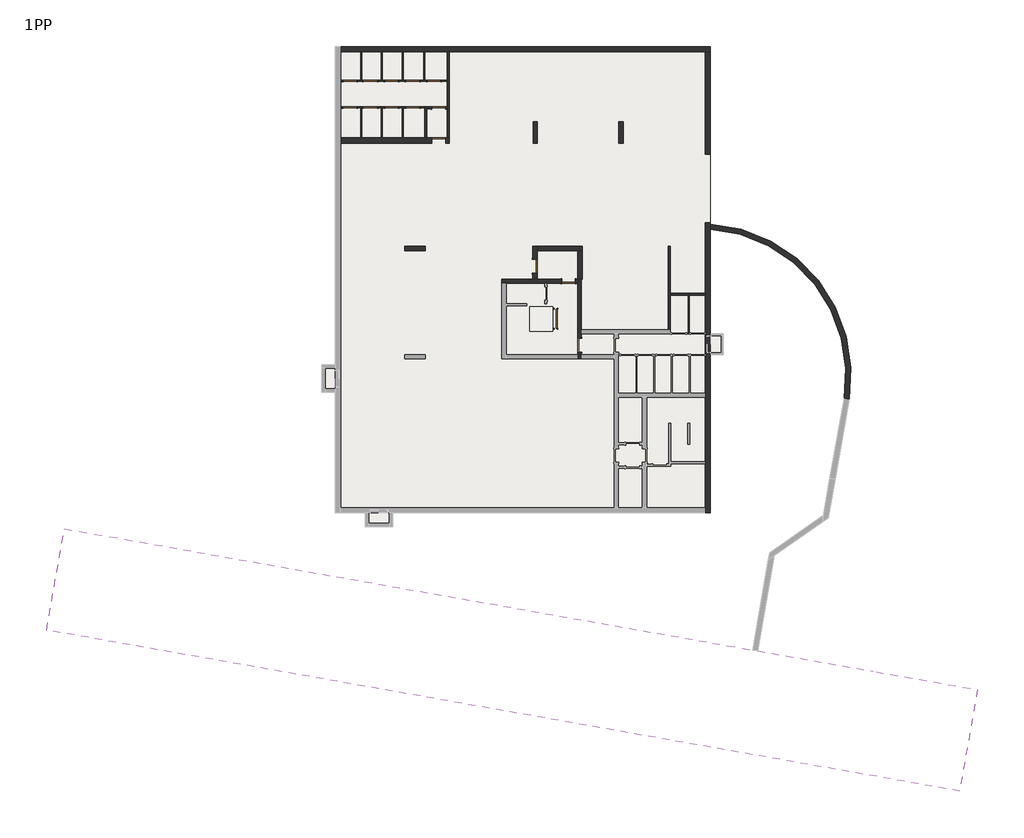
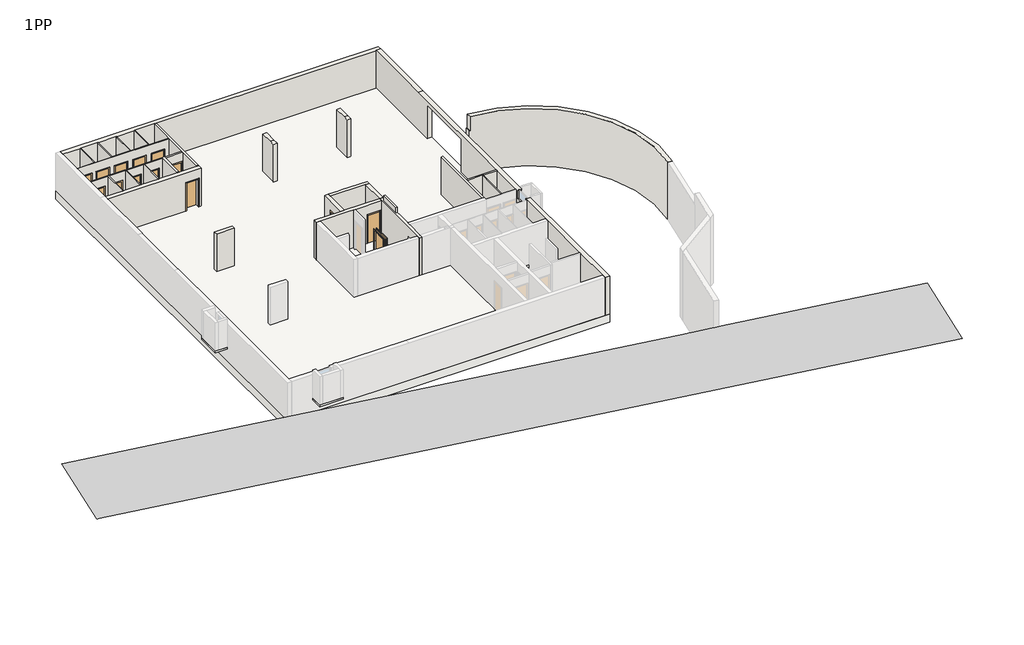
# One storey, part 2 of 2: 27 walls, 14 doors, 5 slabs, 1 proxy.
"""IFC4 building model written with IfcOpenShell, lengths in millimetres."""

from ifc_helpers import new_model, si_unit, frame, origin, place, context, project, spatial, polyline, circle_curve, outline, extrude, faceted_brep, triangles, transform, mapped, element, save
from ifc_brep_helpers import plane_surface, cylinder_surface, revolved_surface, advanced_brep
from components import sd_1100x2000_1d62120a, sd_800x2000_125e4961, sd_800x2000_3ea96131, sd_800x2000_59be3646, sd_800x2000_a65bdf52, sd_800x2000_c4456082

model = new_model("IFC4")

# Units and contexts
model_context = context("Model", 3, world=origin())
ifc_project = project(units=[si_unit("LENGTHUNIT", "METRE", prefix="MILLI")], contexts=[model_context])

# Site, building, storey
site = spatial("IfcSite", under=ifc_project)
building = spatial("IfcBuilding", under=site)
storey = spatial("IfcBuildingStorey", under=building, Name="1PP", Elevation=-3100.0)

# Proxy
placement = place(None, origin())
element("IfcBuildingElementProxy", 1, Name="Building Element Proxy", at=placement, inside=storey, context=model_context, shape_type="Tessellation", body=[
    triangles([(-29384.1506104, -17883.2107544, -100.0000008), (23796.8823486, -27260.4616333, -100.0000008), (24837.1421082, -21349.2898865, -100.0000008), (18927.9481476, -20309.3766174, -100.0000008), (18632.5057159, -20257.2821228, -100.0000008), (12034.2933472, -19093.8403473, -100.0000008), (10244.7211853, -18780.6943451, -100.0000008), (-22215.7881592, -13057.0262695, -100.0000008), (-28342.6723206, -11976.6910492, -100.0000008)], [[1, 7, 8], [7, 1, 2], [8, 9, 1], [2, 3, 4], [2, 5, 6], [5, 2, 4], [2, 6, 7]], closed=False),
])

# Doors
sd_1100x2000_shape = sd_1100x2000_1d62120a(model_context)
element("IfcDoor", 2, ObjectType="JednokridlePlne : SD 1100x2000", at=placement, inside=storey, context=model_context, shape_type="MappedRepresentation", body=[
    mapped(sd_1100x2000_shape, transform((277.8037835, 250.1290541, -3100.0), x_axis=(0.0, -1.0, 0.0), y_axis=(1.0, 0.0, 0.0), z_axis=(0.0, 0.0, 1.0))),
])
sd_800x2000_shape = sd_800x2000_125e4961(model_context)
element("IfcDoor", 3, ObjectType="JednokridlePlne : SD 800x2000", at=placement, inside=storey, context=model_context, shape_type="MappedRepresentation", body=[
    mapped(sd_800x2000_shape, transform((-6815.2612912, 14107.6290541, -3100.0), x_axis=(1.0, 0.0, 0.0), y_axis=(0.0, 1.0, 0.0), z_axis=(0.0, 0.0, 1.0))),
])
element("IfcDoor", 4, ObjectType="JednokridlePlne : SD 800x2000", at=placement, inside=storey, context=model_context, shape_type="MappedRepresentation", body=[
    mapped(sd_800x2000_shape, transform((-8055.2612912, 14107.6290541, -3100.0), x_axis=(1.0, 0.0, 0.0), y_axis=(0.0, 1.0, 0.0), z_axis=(0.0, 0.0, 1.0))),
])
element("IfcDoor", 5, ObjectType="JednokridlePlne : SD 800x2000", at=placement, inside=storey, context=model_context, shape_type="MappedRepresentation", body=[
    mapped(sd_800x2000_shape, transform((-9295.2612912, 14107.6290541, -3100.0), x_axis=(1.0, 0.0, 0.0), y_axis=(0.0, 1.0, 0.0), z_axis=(0.0, 0.0, 1.0))),
])
element("IfcDoor", 6, ObjectType="JednokridlePlne : SD 800x2000", at=placement, inside=storey, context=model_context, shape_type="MappedRepresentation", body=[
    mapped(sd_800x2000_shape, transform((-10535.2612912, 14107.6290541, -3100.0), x_axis=(1.0, 0.0, 0.0), y_axis=(0.0, 1.0, 0.0), z_axis=(0.0, 0.0, 1.0))),
])
element("IfcDoor", 7, ObjectType="JednokridlePlne : SD 800x2000", at=placement, inside=storey, context=model_context, shape_type="MappedRepresentation", body=[
    mapped(sd_800x2000_shape, transform((-11715.2612912, 14107.6290541, -3100.0), x_axis=(1.0, 0.0, 0.0), y_axis=(0.0, 1.0, 0.0), z_axis=(0.0, 0.0, 1.0))),
])
sd_800x2000_2_shape = sd_800x2000_3ea96131(model_context)
element("IfcDoor", 8, ObjectType="JednokridlePlne : SD 800x2000", at=placement, inside=storey, context=model_context, shape_type="MappedRepresentation", body=[
    mapped(sd_800x2000_2_shape, transform((-11715.2612912, 12567.6290541, -3100.0), x_axis=(1.0, 0.0, 0.0), y_axis=(0.0, 1.0, 0.0), z_axis=(0.0, 0.0, 1.0))),
])
element("IfcDoor", 9, ObjectType="JednokridlePlne : SD 800x2000", at=placement, inside=storey, context=model_context, shape_type="MappedRepresentation", body=[
    mapped(sd_800x2000_2_shape, transform((-10535.2612912, 12567.6290541, -3100.0), x_axis=(1.0, 0.0, 0.0), y_axis=(0.0, 1.0, 0.0), z_axis=(0.0, 0.0, 1.0))),
])
element("IfcDoor", 10, ObjectType="JednokridlePlne : SD 800x2000", at=placement, inside=storey, context=model_context, shape_type="MappedRepresentation", body=[
    mapped(sd_800x2000_2_shape, transform((-9295.2612912, 12567.6290541, -3100.0), x_axis=(1.0, 0.0, 0.0), y_axis=(0.0, 1.0, 0.0), z_axis=(0.0, 0.0, 1.0))),
])
element("IfcDoor", 11, ObjectType="JednokridlePlne : SD 800x2000", at=placement, inside=storey, context=model_context, shape_type="MappedRepresentation", body=[
    mapped(sd_800x2000_2_shape, transform((-8055.2612912, 12567.6290541, -3100.0), x_axis=(1.0, 0.0, 0.0), y_axis=(0.0, 1.0, 0.0), z_axis=(0.0, 0.0, 1.0))),
])
sd_800x2000_3_shape = sd_800x2000_59be3646(model_context)
element("IfcDoor", 12, ObjectType="JednokridlePlne : SD 800x2000", at=placement, inside=storey, context=model_context, shape_type="MappedRepresentation", body=[
    mapped(sd_800x2000_3_shape, transform((-937.1911601, 3317.6290541, -3100.0), x_axis=(0.0, -1.0, 0.0), y_axis=(1.0, 0.0, 0.0), z_axis=(0.0, 0.0, 1.0))),
])
element("IfcDoor", 13, ObjectType="JednokridlePlne : SD 800x2000", at=placement, inside=storey, context=model_context, shape_type="MappedRepresentation", body=[
    mapped(sd_800x2000_3_shape, transform((1022.8088399, 2442.6290541, -3100.0), x_axis=(-1.0, 0.0, 0.0), y_axis=(0.0, -1.0, 0.0), z_axis=(0.0, 0.0, 1.0))),
])
sd_800x2000_4_shape = sd_800x2000_a65bdf52(model_context)
element("IfcDoor", 14, ObjectType="JednokridlePlne : SD 800x2000", at=placement, inside=storey, context=model_context, shape_type="MappedRepresentation", body=[
    mapped(sd_800x2000_4_shape, transform((-6533.5911601, 10637.6290541, -3100.0), x_axis=(-1.0, 0.0, 0.0), y_axis=(0.0, -1.0, 0.0), z_axis=(0.0, 0.0, 1.0))),
])
sd_800x2000_5_shape = sd_800x2000_c4456082(model_context)
element("IfcDoor", 15, ObjectType="JednokridlePlne : SD 800x2000", at=placement, inside=storey, context=model_context, shape_type="MappedRepresentation", body=[
    mapped(sd_800x2000_5_shape, transform((-6533.5911601, 12532.6290541, -3100.0), x_axis=(-1.0, 0.0, 0.0), y_axis=(0.0, -1.0, 0.0), z_axis=(0.0, 0.0, 1.0))),
])

# Slabs
element("IfcSlab", 16, ObjectType="STB120 Light Pit", at=placement, inside=storey, context=model_context, shape_type="Brep", body=[
    faceted_brep([(-12557.1911601, -2432.3709459, -2220.0), (-12557.1911601, -4032.3709459, -2220.0), (-13363.5911601, -4032.3709459, -2220.0), (-13363.5911601, -2432.3709459, -2220.0), (-12557.1911601, -2432.3709459, -2100.0), (-13363.5911601, -2432.3709459, -2100.0), (-13363.5911601, -2632.3709459, -2100.0), (-13363.5911601, -4032.3709459, -2100.0), (-13163.5911601, -4032.3709459, -2100.0), (-12557.1911601, -4032.3709459, -2100.0)], [[[0, 1, 2, 3]], [[4, 5, 6, 7, 8, 9]], [[1, 0, 4, 9]], [[2, 1, 9, 8, 7]], [[3, 2, 7, 6, 5]], [[0, 3, 5, 4]]]),
])
element("IfcSlab", 17, ObjectType="STB120 Light Pit", at=placement, inside=storey, context=model_context, shape_type="Brep", body=[
    faceted_brep([(-9223.5911601, -11872.3709459, -2220.0), (-10823.5911601, -11872.3709459, -2220.0), (-10823.5911601, -11052.3709459, -2220.0), (-9223.5911601, -11052.3709459, -2220.0), (-9223.5911601, -11872.3709459, -2100.0), (-9223.5911601, -11052.3709459, -2100.0), (-10823.5911601, -11052.3709459, -2100.0), (-10823.5911601, -11872.3709459, -2100.0), (-10623.5911601, -11872.3709459, -2100.0), (-9423.5911601, -11872.3709459, -2100.0)], [[[0, 1, 2, 3]], [[4, 5, 6, 7, 8, 9]], [[1, 0, 4, 9, 8, 7]], [[2, 1, 7, 6]], [[3, 2, 6, 5]], [[0, 3, 5, 4]]]),
])
element("IfcSlab", 18, ObjectType="STB120 Light Pit", at=placement, inside=storey, context=model_context, shape_type="Brep", body=[
    faceted_brep([(10036.4088399, -1852.3709459, -2220.0), (9282.8088399, -1852.3709459, -2220.0), (9282.8088399, -612.3709455, -2220.0), (10036.4088399, -612.3709455, -2220.0), (10036.4088399, -1852.3709459, -2100.0), (10036.4088399, -732.3709455, -2100.0), (10036.4088399, -612.3709455, -2100.0), (9282.8088399, -612.3709455, -2100.0), (9282.8088399, -1852.3709459, -2100.0), (9916.4088399, -1852.3709459, -2100.0)], [[[0, 1, 2, 3]], [[4, 5, 6, 7, 8, 9]], [[1, 0, 4, 9, 8]], [[2, 1, 8, 7]], [[3, 2, 7, 6]], [[0, 3, 6, 5, 4]]]),
])
element("IfcSlab", 19, ObjectType="STB400", at=placement, inside=storey, context=model_context, shape_type="Brep", body=[
    faceted_brep([(362.8037835, 1117.6290541, -4900.0), (362.8037835, -632.3709459, -4900.0), (-1407.1962165, -632.3709459, -4900.0), (-1407.1962165, 1117.6290541, -4900.0), (362.8037835, 1117.6290541, -4500.0), (-1407.1962165, 1117.6290541, -4500.0), (-1407.1962165, 947.6290541, -4500.0), (-1407.1962165, -632.3709459, -4500.0), (-1237.1962165, -632.3709459, -4500.0), (362.8037835, -632.3709459, -4500.0), (362.8037835, -462.3709459, -4500.0), (362.8037835, 947.6290541, -4500.0)], [[[0, 1, 2, 3]], [[4, 5, 6, 7, 8, 9, 10, 11]], [[1, 0, 4, 11, 10, 9]], [[2, 1, 9, 8, 7]], [[3, 2, 7, 6, 5]], [[0, 3, 5, 4]]]),
])
element("IfcSlab", 20, ObjectType="STB400 + 180 Lining", at=placement, inside=storey, context=model_context, shape_type="Brep", body=[
    faceted_brep([(9282.8088399, 16107.6290541, -3680.0), (9282.8088399, -11052.3709459, -3680.0), (-12557.1911601, -11052.3709459, -3680.0), (-12557.1911601, 16107.6290541, -3680.0), (87.8037835, 947.6290541, -3680.0), (-1237.1962165, 947.6290541, -3680.0), (-1237.1962165, -462.3709459, -3680.0), (87.8037835, -462.3709459, -3680.0), (9282.8088399, 16107.6290541, -3100.0), (-12257.1911601, 16107.6290541, -3100.0), (-12557.1911601, 16107.6290541, -3100.0), (-12557.1911601, -11052.3709459, -3100.0), (-12257.1911601, -11052.3709459, -3100.0), (8982.8088399, -11052.3709459, -3100.0), (9282.8088399, -11052.3709459, -3100.0), (9282.8088399, 5833.9107709, -3100.0), (9282.8088399, 9833.9107709, -3100.0), (9282.8088399, 15807.6290541, -3100.0), (87.8037835, 947.6290541, -3100.0), (87.8037835, -462.3709459, -3100.0), (-1237.1962165, -462.3709459, -3100.0), (-1237.1962165, 947.6290541, -3100.0)], [[[0, 1, 2, 3], [4, 5, 6, 7]], [[8, 9, 10, 11, 12, 13, 14, 15, 16, 17], [18, 19, 20, 21]], [[1, 0, 8, 17, 16, 15, 14]], [[2, 1, 14, 13, 12, 11]], [[3, 2, 11, 10]], [[0, 3, 10, 9, 8]], [[5, 4, 18, 21]], [[6, 5, 21, 20]], [[7, 6, 20, 19]], [[4, 7, 19, 18]]]),
])

# Walls
element("IfcWall", 21, ObjectType="Exterior - STB 300mm", at=placement, inside=storey, context=model_context, shape_type="Brep", body=[
    faceted_brep([(-12257.1911601, 15807.6290541, -3100.0), (-11073.5911601, 15807.6290541, -3100.0), (-11023.5911601, 15807.6290541, -3100.0), (-9893.5911601, 15807.6290541, -3100.0), (-9843.5911601, 15807.6290541, -3100.0), (-8653.5911601, 15807.6290541, -3100.0), (-8603.5911601, 15807.6290541, -3100.0), (-7413.5911601, 15807.6290541, -3100.0), (-7363.5911601, 15807.6290541, -3100.0), (-6043.5911601, 15807.6290541, -3100.0), (-5923.5911601, 15807.6290541, -3100.0), (8982.8088399, 15807.6290541, -3100.0), (9282.8088399, 15807.6290541, -3100.0), (9282.8088399, 15807.6290541, -409.0), (-7363.5911601, 15807.6290541, -409.0), (-7413.5911601, 15807.6290541, -409.0), (-8603.5911601, 15807.6290541, -409.0), (-8653.5911601, 15807.6290541, -409.0), (-9843.5911601, 15807.6290541, -409.0), (-9893.5911601, 15807.6290541, -409.0), (-11023.5911601, 15807.6290541, -409.0), (-11073.5911601, 15807.6290541, -409.0), (-12257.1911601, 15807.6290541, -409.0), (-12257.1911601, 16107.6290541, -3100.0), (-12257.1911601, 16107.6290541, -409.0), (9282.8088399, 16107.6290541, -409.0), (9282.8088399, 16107.6290541, -3100.0)], [[[0, 1, 2, 3, 4, 5, 6, 7, 8, 9, 10, 11, 12, 13, 14, 15, 16, 17, 18, 19, 20, 21, 22]], [[23, 24, 25, 26]], [[12, 11, 10, 9, 8, 7, 6, 5, 4, 3, 2, 1, 0, 23, 26]], [[13, 12, 26, 25]], [[0, 22, 24, 23]], [[22, 21, 20, 19, 18, 17, 16, 15, 14, 13, 25, 24]]]),
])
element("IfcWall", 22, ObjectType="Exterior - STB 300mm", at=placement, inside=storey, context=model_context, shape_type="Brep", body=[
    faceted_brep([(8982.8088399, -11052.3709459, -3100.0), (8982.8088399, -11052.3709459, -400.0), (8982.8088399, -10752.3709459, -400.0), (8982.8088399, -8182.3709459, -400.0), (8982.8088399, -8062.3709459, -400.0), (8982.8088399, -8052.3709459, -400.0), (8982.8088399, -5832.3709459, -400.0), (8982.8088399, -4332.3709459, -400.0), (8982.8088399, -4082.3709459, -400.0), (8982.8088399, -1882.3709459, -400.0), (8982.8088399, -1832.3709459, -400.0), (8982.8088399, -1732.3709482, -400.0), (8982.8088399, -1732.3709482, -1000.0), (8982.8088399, -732.3709482, -1000.0), (8982.8088399, -732.3709482, -400.0), (8982.8088399, -632.3709459, -400.0), (8982.8088399, -582.3709459, -400.0), (8982.8088399, 1617.6290541, -400.0), (8982.8088399, 1737.6290541, -400.0), (8982.8088399, 10867.6290541, -400.0), (8982.8088399, 15807.6290541, -400.0), (8982.8088399, 15807.6290541, -3100.0), (8982.8088399, 9833.9107709, -3100.0), (8982.8088399, 9833.9107709, -700.0), (8982.8088399, 5833.9107709, -700.0), (8982.8088399, 5833.9107709, -3100.0), (8982.8088399, 1737.6290541, -3100.0), (8982.8088399, 1617.6290541, -3100.0), (8982.8088399, -582.3709459, -3100.0), (8982.8088399, -632.3709459, -3100.0), (8982.8088399, -1832.3709459, -3100.0), (8982.8088399, -1882.3709459, -3100.0), (8982.8088399, -4082.3709459, -3100.0), (8982.8088399, -4332.3709459, -3100.0), (8982.8088399, -8062.3709459, -3100.0), (8982.8088399, -8182.3709459, -3100.0), (8982.8088399, -10752.3709459, -3100.0), (9282.8088399, -11052.3709459, -400.0), (9282.8088399, -11052.3709459, -3100.0), (9282.8088399, 5465.8077821, -3100.0), (9282.8088399, 5766.4923812, -3100.0), (9282.8088399, 5833.9107709, -3100.0), (9282.8088399, 5833.9107709, -700.0), (9282.8088399, 9833.9107709, -700.0), (9282.8088399, 9833.9107709, -3100.0), (9282.8088399, 15807.6290541, -3100.0), (9282.8088399, 15807.6290541, -409.0), (9282.8088399, 15807.6290541, -400.0), (9282.8088399, 10867.6290541, -400.0), (9282.8088399, 10389.7527089, -400.0), (9282.8088399, 9901.4107709, -400.0), (9282.8088399, -732.3709482, -400.0), (9282.8088399, -732.3709482, -1000.0), (9282.8088399, -1732.3709482, -1000.0), (9282.8088399, -1732.3709482, -400.0)], [[[0, 1, 2, 3, 4, 5, 6, 7, 8, 9, 10, 11, 12, 13, 14, 15, 16, 17, 18, 19, 20, 21, 22, 23, 24, 25, 26, 27, 28, 29, 30, 31, 32, 33, 34, 35, 36]], [[37, 38, 39, 40, 41, 42, 43, 44, 45, 46, 47, 48, 49, 50, 51, 52, 53, 54]], [[38, 0, 36, 35, 34, 33, 32, 31, 30, 29, 28, 27, 26, 25, 41, 40, 39]], [[21, 45, 44, 22]], [[1, 0, 38, 37]], [[21, 20, 47, 46, 45]], [[47, 20, 19, 48]], [[1, 37, 54, 11, 10, 9, 8, 7, 6, 5, 4, 3, 2]], [[48, 19, 18, 17, 16, 15, 14, 51, 50, 49]], [[43, 23, 22, 44]], [[24, 42, 41, 25]], [[23, 43, 42, 24]], [[13, 52, 51, 14]], [[53, 12, 11, 54]], [[52, 13, 12, 53]]]),
])
element("IfcWall", 23, ObjectType="Exterior - STB 300mm", at=placement, inside=storey, context=model_context, shape_type="Brep", body=[
    faceted_brep([(-12257.1911601, 10487.6290541, -3100.0), (-6933.5911601, 10487.6290541, -3100.0), (-6933.5911601, 10487.6290541, -1100.0), (-6133.5911601, 10487.6290541, -1100.0), (-6133.5911601, 10487.6290541, -3100.0), (-5923.5911601, 10487.6290541, -3100.0), (-5923.5911601, 10487.6290541, -400.0), (-12257.1911601, 10487.6290541, -400.0), (-6933.5911601, 10787.6290541, -1100.0), (-6933.5911601, 10787.6290541, -3100.0), (-7243.5911601, 10787.6290541, -3100.0), (-7363.5911601, 10787.6290541, -3100.0), (-8603.5911601, 10787.6290541, -3100.0), (-8653.5911601, 10787.6290541, -3100.0), (-9843.5911601, 10787.6290541, -3100.0), (-9893.5911601, 10787.6290541, -3100.0), (-11023.5911601, 10787.6290541, -3100.0), (-11073.5911601, 10787.6290541, -3100.0), (-12257.1911601, 10787.6290541, -3100.0), (-12257.1911601, 10787.6290541, -400.0), (-11073.5911601, 10787.6290541, -400.0), (-11023.5911601, 10787.6290541, -400.0), (-9893.5911601, 10787.6290541, -400.0), (-9843.5911601, 10787.6290541, -400.0), (-8653.5911601, 10787.6290541, -400.0), (-8603.5911601, 10787.6290541, -400.0), (-7363.5911601, 10787.6290541, -400.0), (-7243.5911601, 10787.6290541, -400.0), (-6043.5911601, 10787.6290541, -400.0), (-5923.5911601, 10787.6290541, -400.0), (-5923.5911601, 10787.6290541, -3100.0), (-6043.5911601, 10787.6290541, -3100.0), (-6133.5911601, 10787.6290541, -3100.0), (-6133.5911601, 10787.6290541, -1100.0)], [[[0, 1, 2, 3, 4, 5, 6, 7]], [[8, 9, 10, 11, 12, 13, 14, 15, 16, 17, 18, 19, 20, 21, 22, 23, 24, 25, 26, 27, 28, 29, 30, 31, 32, 33]], [[18, 17, 16, 15, 14, 13, 12, 11, 10, 9, 1, 0]], [[32, 31, 30, 5, 4]], [[6, 5, 30, 29]], [[0, 7, 19, 18]], [[7, 6, 29, 28, 27, 26, 25, 24, 23, 22, 21, 20, 19]], [[2, 1, 9, 8]], [[3, 2, 8, 33]], [[4, 3, 33, 32]]]),
])
element("IfcWall", 24, ObjectType="Exterior - STB 300mm", at=placement, inside=storey, context=model_context, shape_type="AdvancedBrep", body=[
    advanced_brep(
    [(17360.0752435, -4438.5110541, 1000.0), (9362.8037835, 5760.8115585, 1000.0), (9362.8037835, 5459.9248888, 1000.0), (17064.3928143, -4387.7782943, 1000.0), (17360.0752435, -4438.5110541, -3100.0), (17064.3928143, -4387.7782943, -3100.0), (9282.8088399, 5465.8077821, -3100.0), (9282.8088399, 5766.4923812, -3100.0), (9282.8088399, 5766.4923812, 0.0), (9362.8037835, 5760.8115585, 0.0), (9362.8037835, 5459.9248888, 0.0), (9282.8088399, 5465.8077821, 0.0)],
    [
        (0, 1, circle_curve(frame((8700.9450523, -2993.1355038, 1000.0), z_axis=(0.0, 0.0, 1.0), x_axis=(1.0, 0.0, 0.0)), 8778.9319481)),
        (1, 2),
        (2, 3, circle_curve(frame((8700.9450523, -2993.1355038, 1000.0), z_axis=(0.0, 0.0, -1.0), x_axis=(1.0, 0.0, 0.0)), 8478.9319481)),
        (3, 0),
        (4, 5),
        (5, 6, circle_curve(frame((8700.9450523, -2993.1355038, -3100.0), z_axis=(0.0, 0.0, 1.0), x_axis=(1.0, 0.0, 0.0)), 8478.9319481)),
        (6, 7),
        (7, 4, circle_curve(frame((8700.9450523, -2993.1355038, -3100.0), z_axis=(0.0, 0.0, -1.0), x_axis=(1.0, 0.0, 0.0)), 8778.9319481)),
        (0, 4),
        (7, 8),
        (8, 9, circle_curve(frame((8700.9450523, -2993.1355038, 0.0), z_axis=(0.0, 0.0, -1.0), x_axis=(1.0, 0.0, 0.0)), 8778.9319481)),
        (9, 1),
        (2, 10),
        (10, 11, circle_curve(frame((8700.9450523, -2993.1355038, 0.0), z_axis=(0.0, 0.0, 1.0), x_axis=(1.0, 0.0, 0.0)), 8478.9319481)),
        (11, 6),
        (5, 3),
        (10, 9),
        (8, 11),
    ],
    [
        plane_surface(frame((17479.8770004, -2993.1355038, 1000.0), z_axis=(0.0, 0.0, 1.0), x_axis=(0.0, 1.0, 0.0))),
        plane_surface(frame((17479.8770004, -2993.1355038, -3100.0), z_axis=(0.0, 0.0, -1.0), x_axis=(0.0, -1.0, 0.0))),
        cylinder_surface(frame((8700.9450523, -2993.1355038, -3100.0), z_axis=(0.0, 0.0, 1.0), x_axis=(1.0, 0.0, 0.0)), 8778.9319481),
        revolved_surface(polyline([(17179.8770004, -2993.1355038, -3100.0), (17179.8770004, -2993.1355038, 1000.0)]), (8700.9450523, -2993.1355038, -3100.0), (0.0, 0.0, -1.0)),
        plane_surface(frame((17064.3928143, -4387.7782943, -3100.0), z_axis=(-0.1691074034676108, -0.985597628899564, 0.0), x_axis=(0.985597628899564, -0.1691074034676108, 0.0))),
        plane_surface(frame((9140.3160921, 5774.7946533, 0.0), z_axis=(0.0, 0.0, 1.0), x_axis=(1.0, 0.0, 0.0))),
        plane_surface(frame((9282.8088399, 16107.6290541, -3100.0), z_axis=(-1.0, 0.0, 0.0), x_axis=(0.0, 1.0, 0.0))),
        plane_surface(frame((9362.8037835, 10567.6290541, 0.0), z_axis=(-1.0, 0.0, 0.0), x_axis=(0.0, 1.0, 0.0))),
    ],
    [
        (0, [[1, 2, 3, 4]]),
        (1, [[5, 6, 7, 8]]),
        (2, [[-1, 9, -8, 10, 11, 12]]),
        (3, [[-3, 13, 14, 15, -6, 16]]),
        (4, [[-4, -16, -5, -9]]),
        (5, [[17, -11, 18, -14]]),
        (6, [[-10, -7, -15, -18]]),
        (7, [[-2, -12, -17, -13]]),
    ],
),
])
element("IfcWall", 25, ObjectType="Interior - 120mm", at=placement, inside=storey, context=model_context, shape_type="Brep", body=[
    faceted_brep([(6946.4088399, -382.3709459, -3100.0), (6946.4088399, 1617.6290541, -3100.0), (6946.4088399, 1737.6290541, -3100.0), (6946.4088399, 4467.6290541, -3100.0), (6946.4088399, 4467.6290541, -400.0), (6946.4088399, 1737.6290541, -400.0), (6946.4088399, 1617.6290541, -400.0), (6946.4088399, -382.3709459, -400.0), (6826.4088399, -382.3709459, -3100.0), (6826.4088399, -382.3709459, -400.0), (6826.4088399, 4467.6290541, -400.0), (6826.4088399, 4467.6290541, -3100.0)], [[[0, 1, 2, 3, 4, 5, 6, 7]], [[8, 9, 10, 11]], [[3, 2, 1, 0, 8, 11]], [[4, 3, 11, 10]], [[0, 7, 9, 8]], [[7, 6, 5, 4, 10, 9]]]),
])
element("IfcWall", 26, ObjectType="Interior - 120mm", at=placement, inside=storey, context=model_context, shape_type="Brep", body=[
    faceted_brep([(6946.4088399, 1617.6290541, -3100.0), (7986.4088399, 1617.6290541, -3100.0), (8036.4088399, 1617.6290541, -3100.0), (8982.8088399, 1617.6290541, -3100.0), (8982.8088399, 1617.6290541, -400.0), (8036.4088399, 1617.6290541, -400.0), (7986.4088399, 1617.6290541, -400.0), (6946.4088399, 1617.6290541, -400.0), (6946.4088399, 1737.6290541, -3100.0), (6946.4088399, 1737.6290541, -400.0), (8982.8088399, 1737.6290541, -400.0), (8982.8088399, 1737.6290541, -3100.0)], [[[0, 1, 2, 3, 4, 5, 6, 7]], [[8, 9, 10, 11]], [[3, 2, 1, 0, 8, 11]], [[4, 3, 11, 10]], [[0, 7, 9, 8]], [[7, 6, 5, 4, 10, 9]]]),
])
element("IfcWall", 27, ObjectType="Interior - 120mm", at=placement, inside=storey, context=model_context, shape_type="Brep", body=[
    faceted_brep([(-5923.5911601, 10787.6290541, -3100.0), (-5923.5911601, 15807.6290541, -3100.0), (-5923.5911601, 15807.6290541, -400.0), (-5923.5911601, 10867.6290541, -400.0), (-5923.5911601, 10787.6290541, -400.0), (-6043.5911601, 10787.6290541, -3100.0), (-6043.5911601, 10787.6290541, -400.0), (-6043.5911601, 10867.6290541, -400.0), (-6043.5911601, 15807.6290541, -400.0), (-6043.5911601, 15807.6290541, -3100.0), (-6043.5911601, 14132.6290541, -3100.0), (-6043.5911601, 14082.6290541, -3100.0), (-6043.5911601, 12592.6290541, -3100.0), (-6043.5911601, 12472.6290541, -3100.0)], [[[0, 1, 2, 3, 4]], [[5, 6, 7, 8, 9, 10, 11, 12, 13]], [[1, 0, 5, 13, 12, 11, 10, 9]], [[0, 4, 6, 5]], [[2, 1, 9, 8]], [[3, 2, 8, 7]], [[4, 3, 7, 6]]]),
])
element("IfcWall", 28, ObjectType="Interior - 120mm", at=placement, inside=storey, context=model_context, shape_type="Brep", body=[
    faceted_brep([(-7243.5911601, 10787.6290541, -3100.0), (-7243.5911601, 12472.6290541, -3100.0), (-7243.5911601, 12592.6290541, -3100.0), (-7243.5911601, 12592.6290541, -409.0), (-7243.5911601, 12592.6290541, -400.0), (-7243.5911601, 10867.6290541, -400.0), (-7243.5911601, 10787.6290541, -400.0), (-7363.5911601, 10787.6290541, -3100.0), (-7363.5911601, 10787.6290541, -400.0), (-7363.5911601, 10867.6290541, -400.0), (-7363.5911601, 12592.6290541, -400.0), (-7363.5911601, 12592.6290541, -409.0), (-7363.5911601, 12592.6290541, -3100.0), (-7363.5911601, 12542.6290541, -3100.0)], [[[0, 1, 2, 3, 4, 5, 6]], [[7, 8, 9, 10, 11, 12, 13]], [[2, 1, 0, 7, 13, 12]], [[4, 3, 2, 12, 11, 10]], [[0, 6, 8, 7]], [[5, 4, 10, 9]], [[6, 5, 9, 8]]]),
])
element("IfcWall", 29, ObjectType="Interior - 120mm", at=placement, inside=storey, context=model_context, shape_type="SweptSolid", body=[
    extrude(outline(polyline([(-3100.0, -7243.5911601), (-3100.0, -6933.5911601), (-1100.0, -6933.5911601), (-1100.0, -6133.5911601), (-3100.0, -6133.5911601), (-3100.0, -6043.5911601), (-409.0, -6043.5911601), (-409.0, -7243.5911601), (-3100.0, -7243.5911601)])), frame((0.0, 12472.6290541, 0.0), z_axis=(0.0, 1.0, 0.0), x_axis=(0.0, 0.0, 1.0)), (0.0, 0.0, 1.0), 120.0),
])
element("IfcWall", 30, ObjectType="Interior - 200mm", at=placement, inside=storey, context=model_context, shape_type="Brep", body=[
    faceted_brep([(1562.8088399, -892.8016415, -3100.0), (1562.8088399, -892.8016415, -1100.0), (1562.8088399, -1692.8016415, -1100.0), (1562.8088399, -1692.8016415, -3100.0), (1562.8088399, -1832.3709459, -3100.0), (1562.8088399, -2082.3709459, -3100.0), (1562.8088399, -2082.3709459, -400.0), (1562.8088399, -1832.3709459, -400.0), (1562.8088399, 2317.6290541, -400.0), (1562.8088399, 2567.6290541, -400.0), (1562.8088399, 2567.6290541, -3100.0), (1562.8088399, 2317.6290541, -3100.0), (1762.8088399, -892.8016415, -1100.0), (1762.8088399, -892.8016415, -3100.0), (1762.8088399, -632.3709459, -3100.0), (1762.8088399, -382.3709459, -3100.0), (1762.8088399, 2567.6290541, -3100.0), (1762.8088399, 2567.6290541, -400.0), (1762.8088399, 2217.6290541, -400.0), (1762.8088399, 2217.6290541, 0.0), (1762.8088399, 817.6290541, 0.0), (1762.8088399, 817.6290541, -400.0), (1762.8088399, 567.6290541, -400.0), (1762.8088399, -382.3709459, -400.0), (1762.8088399, -632.3709459, -400.0), (1762.8088399, -1832.3709459, -400.0), (1762.8088399, -2082.3709459, -400.0), (1762.8088399, -2082.3709459, -3100.0), (1762.8088399, -1832.3709459, -3100.0), (1762.8088399, -1692.8016415, -3100.0), (1762.8088399, -1692.8016415, -1100.0), (1662.8088399, 2217.6290541, 0.0), (1662.8088399, 817.6290541, 0.0), (1662.8088399, 817.6290541, -400.0), (1662.8088399, 2217.6290541, -400.0)], [[[0, 1, 2, 3, 4, 5, 6, 7, 8, 9, 10, 11]], [[12, 13, 14, 15, 16, 17, 18, 19, 20, 21, 22, 23, 24, 25, 26, 27, 28, 29, 30]], [[10, 16, 15, 14, 13, 0, 11]], [[27, 5, 4, 3, 29, 28]], [[20, 19, 31, 32]], [[16, 10, 9, 17]], [[5, 27, 26, 6]], [[1, 0, 13, 12]], [[2, 1, 12, 30]], [[3, 2, 30, 29]], [[33, 34, 18, 17, 9, 8, 7, 6, 26, 25, 24, 23, 22, 21]], [[34, 33, 32, 31]], [[32, 33, 21, 20]], [[34, 31, 19, 18]]]),
])
element("IfcWall", 31, ObjectType="Interior - 250mm", at=placement, inside=storey, context=model_context, shape_type="Brep", body=[
    faceted_brep([(-2857.1911601, 2317.6290541, -3100.0), (-2607.1911601, 2317.6290541, -3100.0), (-357.1911601, 2317.6290541, -3100.0), (-237.1911601, 2317.6290541, -3100.0), (622.8088399, 2317.6290541, -3100.0), (622.8088399, 2317.6290541, -1100.0), (1422.8088399, 2317.6290541, -1100.0), (1422.8088399, 2317.6290541, -3100.0), (1562.8088399, 2317.6290541, -3100.0), (1562.8088399, 2317.6290541, -400.0), (-237.1911601, 2317.6290541, -400.0), (-357.1911601, 2317.6290541, -400.0), (-582.1962165, 2317.6290541, -400.0), (-2607.1962165, 2317.6290541, -400.0), (-2857.1911601, 2317.6290541, -400.0), (622.8088399, 2567.6290541, -1100.0), (622.8088399, 2567.6290541, -3100.0), (-812.1911601, 2567.6290541, -3100.0), (-1062.1911601, 2567.6290541, -3100.0), (-2857.1911601, 2567.6290541, -3100.0), (-2857.1911601, 2567.6290541, -400.0), (-1062.1911601, 2567.6290541, -400.0), (-812.1911601, 2567.6290541, -400.0), (1562.8088399, 2567.6290541, -400.0), (1562.8088399, 2567.6290541, -3100.0), (1422.8088399, 2567.6290541, -3100.0), (1422.8088399, 2567.6290541, -1100.0)], [[[0, 1, 2, 3, 4, 5, 6, 7, 8, 9, 10, 11, 12, 13, 14]], [[15, 16, 17, 18, 19, 20, 21, 22, 23, 24, 25, 26]], [[19, 18, 17, 16, 4, 3, 2, 1, 0]], [[25, 24, 8, 7]], [[0, 14, 20, 19]], [[9, 8, 24, 23]], [[14, 13, 12, 11, 10, 9, 23, 22, 21, 20]], [[5, 4, 16, 15]], [[6, 5, 15, 26]], [[7, 6, 26, 25]]]),
])
element("IfcWall", 32, ObjectType="Interior - 250mm", at=placement, inside=storey, context=model_context, shape_type="Brep", body=[
    faceted_brep([(-812.1911601, 2567.6290541, -3100.0), (-812.1911601, 2917.6290541, -3100.0), (-812.1911601, 2917.6290541, -1100.0), (-812.1911601, 3717.6290541, -1100.0), (-812.1911601, 3717.6290541, -3100.0), (-812.1911601, 4217.6290541, -3100.0), (-812.1911601, 4467.6290541, -3100.0), (-812.1911601, 4467.6290541, -400.0), (-812.1911601, 4217.6290541, -400.0), (-812.1911601, 2567.6290541, -400.0), (-1062.1911601, 2917.6290541, -1100.0), (-1062.1911601, 2917.6290541, -3100.0), (-1062.1911601, 2567.6290541, -3100.0), (-1062.1911601, 2567.6290541, -400.0), (-1062.1911601, 4467.6290541, -400.0), (-1062.1911601, 4467.6290541, -3100.0), (-1062.1911601, 3717.6290541, -3100.0), (-1062.1911601, 3717.6290541, -1100.0)], [[[0, 1, 2, 3, 4, 5, 6, 7, 8, 9]], [[10, 11, 12, 13, 14, 15, 16, 17]], [[12, 11, 1, 0]], [[16, 15, 6, 5, 4]], [[7, 6, 15, 14]], [[0, 9, 13, 12]], [[9, 8, 7, 14, 13]], [[2, 1, 11, 10]], [[3, 2, 10, 17]], [[4, 3, 17, 16]]]),
])
element("IfcWall", 33, ObjectType="Interior - 250mm", at=placement, inside=storey, context=model_context, shape_type="Brep", body=[
    faceted_brep([(-812.1911601, 4217.6290541, -3100.0), (1562.8088399, 4217.6290541, -3100.0), (1812.8088399, 4217.6290541, -3100.0), (1812.8088399, 4217.6290541, -400.0), (1562.8088399, 4217.6290541, -400.0), (-812.1911601, 4217.6290541, -400.0), (-812.1911601, 4467.6290541, -3100.0), (-812.1911601, 4467.6290541, -400.0), (-387.1962165, 4467.6290541, -400.0), (-137.1962165, 4467.6290541, -400.0), (112.8037835, 4467.6290541, -400.0), (1812.8088399, 4467.6290541, -400.0), (1812.8088399, 4467.6290541, -3100.0)], [[[0, 1, 2, 3, 4, 5]], [[6, 7, 8, 9, 10, 11, 12]], [[2, 1, 0, 6, 12]], [[3, 2, 12, 11]], [[0, 5, 7, 6]], [[5, 4, 3, 11, 10, 9, 8, 7]]]),
])
element("IfcWall", 34, ObjectType="Interior - 250mm", at=placement, inside=storey, context=model_context, shape_type="Brep", body=[
    faceted_brep([(1812.8088399, 2567.6290541, -3100.0), (1812.8088399, 4217.6290541, -3100.0), (1812.8088399, 4217.6290541, -400.0), (1812.8088399, 2567.6290541, -400.0), (1562.8088399, 2567.6290541, -3100.0), (1562.8088399, 2567.6290541, -400.0), (1562.8088399, 4217.6290541, -400.0), (1562.8088399, 4217.6290541, -3100.0), (1762.8088399, 2567.6290541, -3100.0), (1762.8088399, 2567.6290541, -400.0)], [[[0, 1, 2, 3]], [[4, 5, 6, 7]], [[1, 0, 8, 4, 7]], [[0, 3, 9, 5, 4, 8]], [[2, 1, 7, 6]], [[3, 2, 6, 5, 9]]]),
])
element("IfcWall", 35, ObjectType="Interior - 250mm", at=placement, inside=storey, context=model_context, shape_type="SweptSolid", body=[
    extrude(outline(polyline([(10487.6290541, -3100.0), (10487.6290541, -400.0), (10867.6290541, -400.0), (11717.6290541, -400.0), (11717.6290541, -3100.0), (10487.6290541, -3100.0)])), frame((-1048.5911601, 0.0, 0.0), z_axis=(1.0, 0.0, 0.0), x_axis=(0.0, 1.0, 0.0)), (0.0, 0.0, 1.0), 250.0),
])
element("IfcWall", 36, ObjectType="Interior - 250mm", at=placement, inside=storey, context=model_context, shape_type="SweptSolid", body=[
    extrude(outline(polyline([(10487.6290541, -3100.0), (10487.6290541, -400.0), (10867.6290541, -400.0), (11717.6290541, -400.0), (11717.6290541, -3100.0), (10487.6290541, -3100.0)])), frame((3951.4088399, 0.0, 0.0), z_axis=(1.0, 0.0, 0.0), x_axis=(0.0, 1.0, 0.0)), (0.0, 0.0, 1.0), 250.0),
])
element("IfcWall", 37, ObjectType="Interior - 250mm", at=placement, inside=storey, context=model_context, shape_type="SweptSolid", body=[
    extrude(outline(polyline([(-8523.5911601, 4467.6290541), (-7323.5911601, 4467.6290541), (-7323.5911601, 4217.6290541), (-8523.5911601, 4217.6290541), (-8523.5911601, 4467.6290541)])), frame((0.0, 0.0, -3100.0), z_axis=(0.0, 0.0, 1.0), x_axis=(1.0, 0.0, 0.0)), (0.0, 0.0, 1.0), 2700.0),
])
element("IfcWall", 38, ObjectType="Interior - 500mm", at=placement, inside=storey, context=model_context, shape_type="Brep", body=[
    faceted_brep([(-12257.1911601, 12592.6290541, -3100.0), (-12257.1911601, 12592.6290541, -409.0), (-7363.5911601, 12592.6290541, -409.0), (-7363.5911601, 12592.6290541, -3100.0), (-7655.2612912, 12592.6290541, -3100.0), (-7655.2612912, 12592.6290541, -1100.0), (-8455.2612912, 12592.6290541, -1100.0), (-8455.2612912, 12592.6290541, -3100.0), (-8895.2612912, 12592.6290541, -3100.0), (-8895.2612912, 12592.6290541, -1100.0), (-9695.2612912, 12592.6290541, -1100.0), (-9695.2612912, 12592.6290541, -3100.0), (-10135.2612912, 12592.6290541, -3100.0), (-10135.2612912, 12592.6290541, -1100.0), (-10935.2612912, 12592.6290541, -1100.0), (-10935.2612912, 12592.6290541, -3100.0), (-11315.2612912, 12592.6290541, -3100.0), (-11315.2612912, 12592.6290541, -1100.0), (-12115.2612912, 12592.6290541, -1100.0), (-12115.2612912, 12592.6290541, -3100.0), (-12257.1911601, 12542.6290541, -409.0), (-12257.1911601, 12542.6290541, -3100.0), (-12115.2612912, 12542.6290541, -3100.0), (-12115.2612912, 12542.6290541, -1100.0), (-11315.2612912, 12542.6290541, -1100.0), (-11315.2612912, 12542.6290541, -3100.0), (-11073.5911601, 12542.6290541, -3100.0), (-11023.5911601, 12542.6290541, -3100.0), (-10935.2612912, 12542.6290541, -3100.0), (-10935.2612912, 12542.6290541, -1100.0), (-10135.2612912, 12542.6290541, -1100.0), (-10135.2612912, 12542.6290541, -3100.0), (-9893.5911601, 12542.6290541, -3100.0), (-9843.5911601, 12542.6290541, -3100.0), (-9695.2612912, 12542.6290541, -3100.0), (-9695.2612912, 12542.6290541, -1100.0), (-8895.2612912, 12542.6290541, -1100.0), (-8895.2612912, 12542.6290541, -3100.0), (-8653.5911601, 12542.6290541, -3100.0), (-8603.5911601, 12542.6290541, -3100.0), (-8455.2612912, 12542.6290541, -3100.0), (-8455.2612912, 12542.6290541, -1100.0), (-7655.2612912, 12542.6290541, -1100.0), (-7655.2612912, 12542.6290541, -3100.0), (-7363.5911601, 12542.6290541, -3100.0), (-7363.5911601, 12542.6290541, -409.0)], [[[0, 1, 2, 3, 4, 5, 6, 7, 8, 9, 10, 11, 12, 13, 14, 15, 16, 17, 18, 19]], [[20, 21, 22, 23, 24, 25, 26, 27, 28, 29, 30, 31, 32, 33, 34, 35, 36, 37, 38, 39, 40, 41, 42, 43, 44, 45]], [[21, 0, 19, 22]], [[3, 44, 43, 4]], [[25, 16, 15, 28, 27, 26]], [[31, 12, 11, 34, 33, 32]], [[37, 8, 7, 40, 39, 38]], [[1, 0, 21, 20]], [[3, 2, 45, 44]], [[2, 1, 20, 45]], [[17, 16, 25, 24]], [[18, 17, 24, 23]], [[19, 18, 23, 22]], [[13, 12, 31, 30]], [[14, 13, 30, 29]], [[15, 14, 29, 28]], [[9, 8, 37, 36]], [[10, 9, 36, 35]], [[11, 10, 35, 34]], [[42, 5, 4, 43]], [[5, 42, 41, 6]], [[6, 41, 40, 7]]]),
])
element("IfcWall", 39, ObjectType="Interior - 500mm", at=placement, inside=storey, context=model_context, shape_type="Brep", body=[
    faceted_brep([(-10935.2612912, 14132.6290541, -3100.0), (-11023.5911601, 14132.6290541, -3100.0), (-11073.5911601, 14132.6290541, -3100.0), (-11315.2612912, 14132.6290541, -3100.0), (-11315.2612912, 14132.6290541, -1100.0), (-12115.2612912, 14132.6290541, -1100.0), (-12115.2612912, 14132.6290541, -3100.0), (-12243.5911601, 14132.6290541, -3100.0), (-12243.5911601, 14132.6290541, -409.0), (-11073.5911601, 14132.6290541, -409.0), (-11023.5911601, 14132.6290541, -409.0), (-9893.5911601, 14132.6290541, -409.0), (-9843.5911601, 14132.6290541, -409.0), (-8653.5911601, 14132.6290541, -409.0), (-8603.5911601, 14132.6290541, -409.0), (-7413.5911601, 14132.6290541, -409.0), (-7363.5911601, 14132.6290541, -409.0), (-6043.5911601, 14132.6290541, -409.0), (-6043.5911601, 14132.6290541, -3100.0), (-6415.2612912, 14132.6290541, -3100.0), (-6415.2612912, 14132.6290541, -1100.0), (-7215.2612912, 14132.6290541, -1100.0), (-7215.2612912, 14132.6290541, -3100.0), (-7363.5911601, 14132.6290541, -3100.0), (-7413.5911601, 14132.6290541, -3100.0), (-7655.2612912, 14132.6290541, -3100.0), (-7655.2612912, 14132.6290541, -1100.0), (-8455.2612912, 14132.6290541, -1100.0), (-8455.2612912, 14132.6290541, -3100.0), (-8603.5911601, 14132.6290541, -3100.0), (-8653.5911601, 14132.6290541, -3100.0), (-8895.2612912, 14132.6290541, -3100.0), (-8895.2612912, 14132.6290541, -1100.0), (-9695.2612912, 14132.6290541, -1100.0), (-9695.2612912, 14132.6290541, -3100.0), (-9843.5911601, 14132.6290541, -3100.0), (-9893.5911601, 14132.6290541, -3100.0), (-10135.2612912, 14132.6290541, -3100.0), (-10135.2612912, 14132.6290541, -1100.0), (-10935.2612912, 14132.6290541, -1100.0), (-11315.2612912, 14082.6290541, -1100.0), (-11315.2612912, 14082.6290541, -3100.0), (-10935.2612912, 14082.6290541, -3100.0), (-10935.2612912, 14082.6290541, -1100.0), (-10135.2612912, 14082.6290541, -1100.0), (-10135.2612912, 14082.6290541, -3100.0), (-9695.2612912, 14082.6290541, -3100.0), (-9695.2612912, 14082.6290541, -1100.0), (-8895.2612912, 14082.6290541, -1100.0), (-8895.2612912, 14082.6290541, -3100.0), (-8455.2612912, 14082.6290541, -3100.0), (-8455.2612912, 14082.6290541, -1100.0), (-7655.2612912, 14082.6290541, -1100.0), (-7655.2612912, 14082.6290541, -3100.0), (-7215.2612912, 14082.6290541, -3100.0), (-7215.2612912, 14082.6290541, -1100.0), (-6415.2612912, 14082.6290541, -1100.0), (-6415.2612912, 14082.6290541, -3100.0), (-6043.5911601, 14082.6290541, -3100.0), (-6043.5911601, 14082.6290541, -409.0), (-12243.5911601, 14082.6290541, -409.0), (-12243.5911601, 14082.6290541, -3100.0), (-12115.2612912, 14082.6290541, -3100.0), (-12115.2612912, 14082.6290541, -1100.0)], [[[0, 1, 2, 3, 4, 5, 6, 7, 8, 9, 10, 11, 12, 13, 14, 15, 16, 17, 18, 19, 20, 21, 22, 23, 24, 25, 26, 27, 28, 29, 30, 31, 32, 33, 34, 35, 36, 37, 38, 39]], [[40, 41, 42, 43, 44, 45, 46, 47, 48, 49, 50, 51, 52, 53, 54, 55, 56, 57, 58, 59, 60, 61, 62, 63]], [[58, 57, 19, 18]], [[54, 53, 25, 24, 23, 22]], [[50, 49, 31, 30, 29, 28]], [[46, 45, 37, 36, 35, 34]], [[42, 41, 3, 2, 1, 0]], [[62, 61, 7, 6]], [[8, 7, 61, 60]], [[18, 17, 59, 58]], [[17, 16, 15, 14, 13, 12, 11, 10, 9, 8, 60, 59]], [[20, 19, 57, 56]], [[21, 20, 56, 55]], [[22, 21, 55, 54]], [[26, 25, 53, 52]], [[27, 26, 52, 51]], [[28, 27, 51, 50]], [[32, 31, 49, 48]], [[33, 32, 48, 47]], [[34, 33, 47, 46]], [[38, 37, 45, 44]], [[39, 38, 44, 43]], [[0, 39, 43, 42]], [[4, 3, 41, 40]], [[5, 4, 40, 63]], [[6, 5, 63, 62]]]),
])
element("IfcWall", 40, ObjectType="Interior - 500mm", at=placement, inside=storey, context=model_context, shape_type="SweptSolid", body=[
    extrude(outline(polyline([(-11073.5911601, 14132.6290541), (-11073.5911601, 15807.6290541), (-11023.5911601, 15807.6290541), (-11023.5911601, 14132.6290541), (-11073.5911601, 14132.6290541)])), frame((0.0, 0.0, -3100.0), z_axis=(0.0, 0.0, 1.0), x_axis=(1.0, 0.0, 0.0)), (0.0, 0.0, 1.0), 2691.0),
])
element("IfcWall", 41, ObjectType="Interior - 500mm", at=placement, inside=storey, context=model_context, shape_type="SweptSolid", body=[
    extrude(outline(polyline([(-9893.5911601, 14132.6290541), (-9893.5911601, 15807.6290541), (-9843.5911601, 15807.6290541), (-9843.5911601, 14132.6290541), (-9893.5911601, 14132.6290541)])), frame((0.0, 0.0, -3100.0), z_axis=(0.0, 0.0, 1.0), x_axis=(1.0, 0.0, 0.0)), (0.0, 0.0, 1.0), 2691.0),
])
element("IfcWall", 42, ObjectType="Interior - 500mm", at=placement, inside=storey, context=model_context, shape_type="SweptSolid", body=[
    extrude(outline(polyline([(-8653.5911601, 14132.6290541), (-8653.5911601, 15807.6290541), (-8603.5911601, 15807.6290541), (-8603.5911601, 14132.6290541), (-8653.5911601, 14132.6290541)])), frame((0.0, 0.0, -3100.0), z_axis=(0.0, 0.0, 1.0), x_axis=(1.0, 0.0, 0.0)), (0.0, 0.0, 1.0), 2691.0),
])
element("IfcWall", 43, ObjectType="Interior - 500mm", at=placement, inside=storey, context=model_context, shape_type="SweptSolid", body=[
    extrude(outline(polyline([(-7413.5911601, 14132.6290541), (-7413.5911601, 15807.6290541), (-7363.5911601, 15807.6290541), (-7363.5911601, 14132.6290541), (-7413.5911601, 14132.6290541)])), frame((0.0, 0.0, -3100.0), z_axis=(0.0, 0.0, 1.0), x_axis=(1.0, 0.0, 0.0)), (0.0, 0.0, 1.0), 2691.0),
])
element("IfcWall", 44, ObjectType="Interior - 500mm", at=placement, inside=storey, context=model_context, shape_type="SweptSolid", body=[
    extrude(outline(polyline([(12542.6290541, -3100.0), (10787.6290541, -3100.0), (10787.6290541, -400.0), (10867.6290541, -400.0), (12542.6290541, -400.0), (12542.6290541, -3100.0)])), frame((-8653.5911601, 0.0, 0.0), z_axis=(1.0, 0.0, 0.0), x_axis=(0.0, 1.0, 0.0)), (0.0, 0.0, 1.0), 50.0),
])
element("IfcWall", 45, ObjectType="Interior - 500mm", at=placement, inside=storey, context=model_context, shape_type="SweptSolid", body=[
    extrude(outline(polyline([(12542.6290541, -3100.0), (10787.6290541, -3100.0), (10787.6290541, -400.0), (10867.6290541, -400.0), (12542.6290541, -400.0), (12542.6290541, -3100.0)])), frame((-9893.5911601, 0.0, 0.0), z_axis=(1.0, 0.0, 0.0), x_axis=(0.0, 1.0, 0.0)), (0.0, 0.0, 1.0), 50.0),
])
element("IfcWall", 46, ObjectType="Interior - 500mm", at=placement, inside=storey, context=model_context, shape_type="SweptSolid", body=[
    extrude(outline(polyline([(12542.6290541, -3100.0), (10787.6290541, -3100.0), (10787.6290541, -400.0), (10867.6290541, -400.0), (12542.6290541, -400.0), (12542.6290541, -3100.0)])), frame((-11073.5911601, 0.0, 0.0), z_axis=(1.0, 0.0, 0.0), x_axis=(0.0, 1.0, 0.0)), (0.0, 0.0, 1.0), 50.0),
])
element("IfcWall", 47, ObjectType="Interior - 500mm", at=placement, inside=storey, context=model_context, shape_type="SweptSolid", body=[
    extrude(outline(polyline([(7986.4088399, -582.3709459), (7986.4088399, 1617.6290541), (8036.4088399, 1617.6290541), (8036.4088399, -582.3709459), (7986.4088399, -582.3709459)])), frame((0.0, 0.0, -3100.0), z_axis=(0.0, 0.0, 1.0), x_axis=(1.0, 0.0, 0.0)), (0.0, 0.0, 1.0), 2700.0),
])

save(model, "model.ifc")
